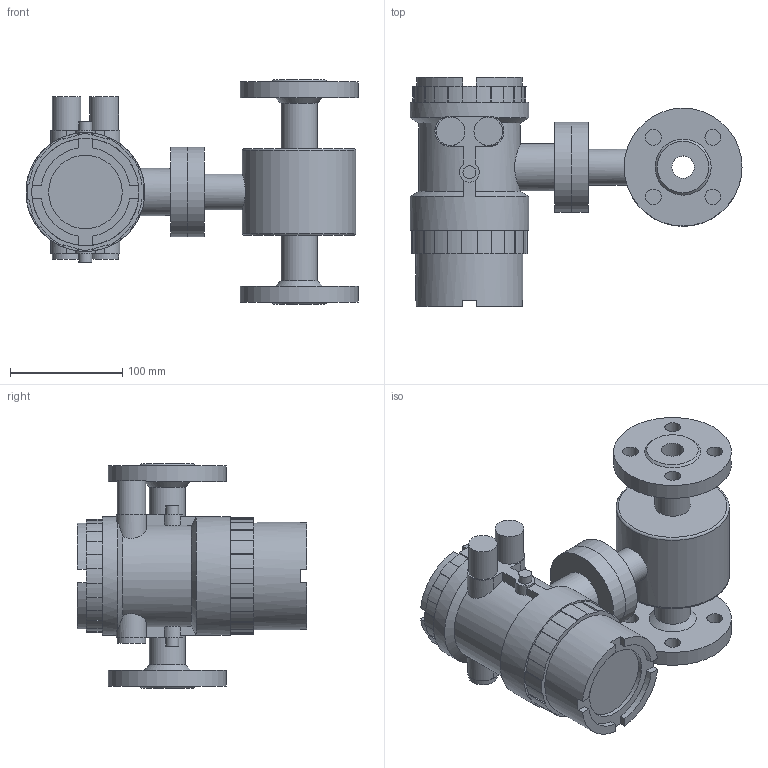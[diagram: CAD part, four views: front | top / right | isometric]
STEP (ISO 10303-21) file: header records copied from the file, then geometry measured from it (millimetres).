
FILE_DESCRIPTION( (''), '2;1');
FILE_NAME( 'QMKC_DN20.step', '2026-08-03T17:48:23+08:00', (''), (''), '', '', '');
FILE_SCHEMA (('AUTOMOTIVE_DESIGN { 1 0 10303 214 3 1 1 1 }'));
Length unit declared in the file: millimetre
Products named in the file (1): QMKC DN20
Bounding box: 295.75 x 204 x 200 mm (x, y, z)
Volume: 2614590.8 mm3; surface area: 232887 mm2
Topology: 2 solids, 2 shells, 218 faces, 577 edges, 388 vertices
Faces by surface type: plane 112, cylinder 96, cone 8, torus 2
Full cylindrical faces by diameter (mm): 11.6 x2, 14 x8, 20 x1, 25.5 x4, 32 x3, 42 x1, 65.5 x1, 80 x2, 95.5 x1, 101 x1, 105 x2, 105.9 x2
Entity records: 6744 total; most frequent: CARTESIAN_POINT 1293, DIRECTION 1152, ORIENTED_EDGE 1058, EDGE_CURVE 529, AXIS2_PLACEMENT_3D 427, VERTEX_POINT 373, LINE 298, VECTOR 298
